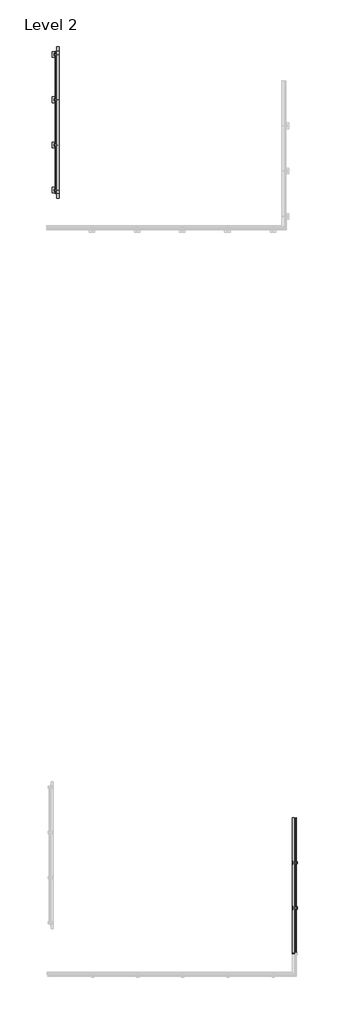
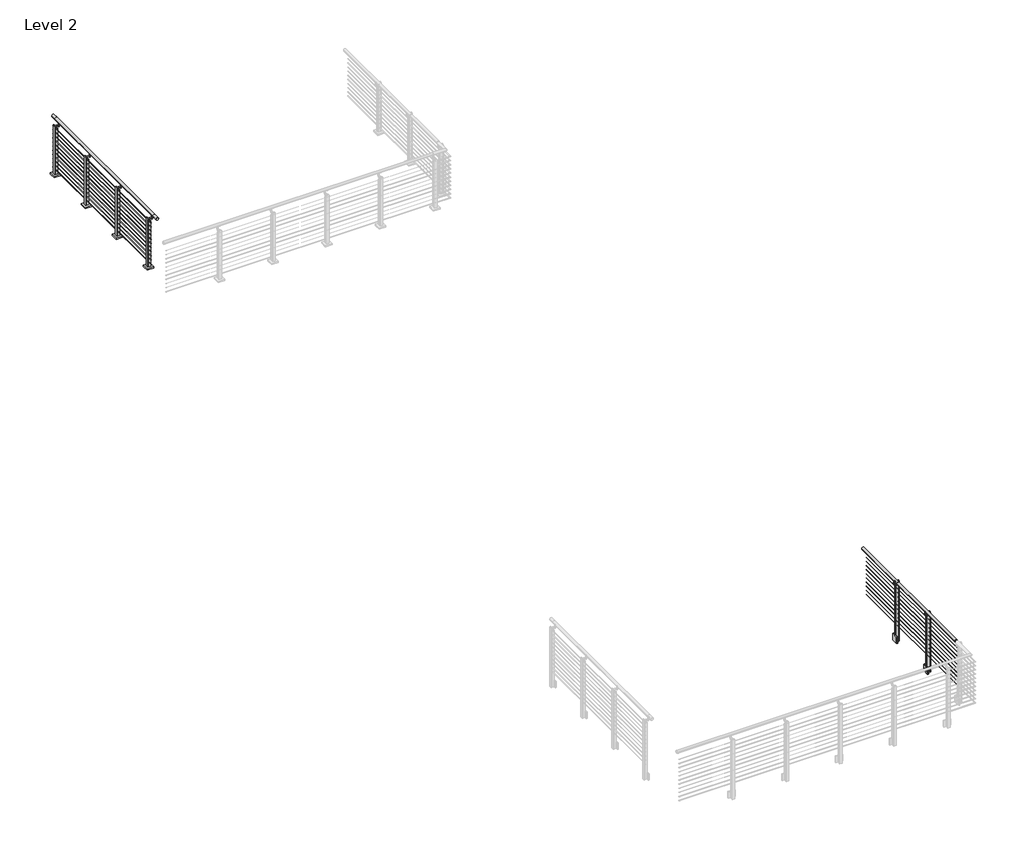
# One storey, part 4 of 12: 2 railings.
"""IFC4 building model written with IfcOpenShell, lengths in millimetres."""

from ifc_helpers import new_model, si_unit, point, frame, frame_2d, origin, place, context, project, spatial, polyline, circle_curve, trimmed, segment, composite_curve, outline, extrude, element, save
from ifc_brep_helpers import plane_surface, cylinder_surface, advanced_brep

model = new_model("IFC4")

# Units and contexts
model_context = context("Model", 3, world=origin())
ifc_project = project(units=[si_unit("LENGTHUNIT", "METRE", prefix="MILLI")], contexts=[model_context])

# Site, building, storey
site = spatial("IfcSite", under=ifc_project)
building = spatial("IfcBuilding", under=site)
storey = spatial("IfcBuildingStorey", under=building, Name="Level 2", Elevation=3048.0)

# Railings
placement = place(None, origin())
element("IfcRailing", 1, ObjectType="VIVA-TEE-Cable-Fascia Mount-Straight", at=placement, inside=storey, context=model_context, shape_type="SolidModel", body=[
    advanced_brep(
    [(-3699.5359195, -51787.2426165, 4102.1), (-3750.3359195, -51787.2426165, 4102.1), (-3699.5359195, -51777.5134231, 4102.1), (-3750.3359195, -51777.5134231, 4102.1), (-3699.5359195, -48729.5134231, 4102.1), (-3750.3359195, -48729.5134231, 4102.1)],
    [
        (0, 1, circle_curve(frame((-3724.9359195, -51787.2426165, 4102.1), z_axis=(0.0, -1.0, 0.0), x_axis=(-1.0, 0.0, 0.0)), 25.4)),
        (1, 0, circle_curve(frame((-3724.9359195, -51787.2426165, 4102.1), z_axis=(0.0, -1.0, 0.0), x_axis=(-1.0, 0.0, 0.0)), 25.4)),
        (0, 2),
        (2, 3, circle_curve(frame((-3724.9359195, -51777.5134231, 4102.1), z_axis=(0.0, -1.0, 0.0), x_axis=(-1.0, 0.0, 0.0)), 25.4)),
        (3, 1),
        (3, 2, circle_curve(frame((-3724.9359195, -51777.5134231, 4102.1), z_axis=(0.0, -1.0, 0.0), x_axis=(-1.0, 0.0, 0.0)), 25.4)),
        (4, 5, circle_curve(frame((-3724.9359195, -48729.5134231, 4102.1), z_axis=(0.0, 1.0, 0.0), x_axis=(-1.0, 0.0, 0.0)), 25.4)),
        (5, 4, circle_curve(frame((-3724.9359195, -48729.5134231, 4102.1), z_axis=(0.0, 1.0, 0.0), x_axis=(-1.0, 0.0, 0.0)), 25.4)),
        (2, 4),
        (5, 3),
    ],
    [
        plane_surface(frame((-3724.9359195, -51787.2426165, 4127.5), z_axis=(0.0, -1.0, 0.0), x_axis=(0.0, 0.0, 1.0))),
        cylinder_surface(frame((-3724.9359195, -51787.2426165, 4102.1), z_axis=(0.0, -1.0, 0.0), x_axis=(-1.0, 0.0, 0.0)), 25.4),
        plane_surface(frame((-3724.9359195, -48729.5134231, 4127.5), z_axis=(0.0, 1.0, 0.0), x_axis=(0.0, 0.0, 1.0))),
        cylinder_surface(frame((-3724.9359195, -51777.5134231, 4102.1), z_axis=(0.0, -1.0, 0.0), x_axis=(-1.0, 0.0, 0.0)), 25.4),
    ],
    [
        (0, [[1, 2]]),
        (1, [[-1, 3, 4, 5]]),
        (1, [[-2, -5, 6, -3]]),
        (2, [[7, 8]]),
        (3, [[-4, 9, -8, 10]]),
        (3, [[-6, -10, -7, -9]]),
    ],
),
    extrude(outline(composite_curve([segment(trimmed(circle_curve(frame_2d((3985.4124, -3663.9759195)), 2.3876), [point((3985.4124, -3666.3635195))], [point((3985.4124, -3661.5883195))], False, "CARTESIAN"), True, "CONTINUOUS"), segment(trimmed(circle_curve(frame_2d((3985.4124, -3663.9759195)), 2.3876), [point((3985.4124, -3661.5883195))], [point((3985.4124, -3666.3635195))], False, "CARTESIAN"), True, "CONTINUOUS")], self_intersect=False)), frame((0.0, -51777.5134231, 0.0), z_axis=(0.0, 1.0, 0.0), x_axis=(0.0, 0.0, 1.0)), (0.0, 0.0, 1.0), 3048.0),
    extrude(outline(composite_curve([segment(trimmed(circle_curve(frame_2d((3902.8624, -3663.9759195)), 2.3876), [point((3902.8624, -3666.3635195))], [point((3902.8624, -3661.5883195))], False, "CARTESIAN"), True, "CONTINUOUS"), segment(trimmed(circle_curve(frame_2d((3902.8624, -3663.9759195)), 2.3876), [point((3902.8624, -3661.5883195))], [point((3902.8624, -3666.3635195))], False, "CARTESIAN"), True, "CONTINUOUS")], self_intersect=False)), frame((0.0, -51777.5134231, 0.0), z_axis=(0.0, 1.0, 0.0), x_axis=(0.0, 0.0, 1.0)), (0.0, 0.0, 1.0), 3048.0),
    extrude(outline(composite_curve([segment(trimmed(circle_curve(frame_2d((3820.3124, -3663.9759195)), 2.3876), [point((3820.3124, -3666.3635195))], [point((3820.3124, -3661.5883195))], False, "CARTESIAN"), True, "CONTINUOUS"), segment(trimmed(circle_curve(frame_2d((3820.3124, -3663.9759195)), 2.3876), [point((3820.3124, -3661.5883195))], [point((3820.3124, -3666.3635195))], False, "CARTESIAN"), True, "CONTINUOUS")], self_intersect=False)), frame((0.0, -51777.5134231, 0.0), z_axis=(0.0, 1.0, 0.0), x_axis=(0.0, 0.0, 1.0)), (0.0, 0.0, 1.0), 3048.0),
    extrude(outline(composite_curve([segment(trimmed(circle_curve(frame_2d((3737.7624, -3663.9759195)), 2.3876), [point((3737.7624, -3666.3635195))], [point((3737.7624, -3661.5883195))], False, "CARTESIAN"), True, "CONTINUOUS"), segment(trimmed(circle_curve(frame_2d((3737.7624, -3663.9759195)), 2.3876), [point((3737.7624, -3661.5883195))], [point((3737.7624, -3666.3635195))], False, "CARTESIAN"), True, "CONTINUOUS")], self_intersect=False)), frame((0.0, -51777.5134231, 0.0), z_axis=(0.0, 1.0, 0.0), x_axis=(0.0, 0.0, 1.0)), (0.0, 0.0, 1.0), 3048.0),
    extrude(outline(composite_curve([segment(trimmed(circle_curve(frame_2d((3655.2124, -3663.9759195)), 2.3876), [point((3655.2124, -3666.3635195))], [point((3655.2124, -3661.5883195))], False, "CARTESIAN"), True, "CONTINUOUS"), segment(trimmed(circle_curve(frame_2d((3655.2124, -3663.9759195)), 2.3876), [point((3655.2124, -3661.5883195))], [point((3655.2124, -3666.3635195))], False, "CARTESIAN"), True, "CONTINUOUS")], self_intersect=False)), frame((0.0, -51777.5134231, 0.0), z_axis=(0.0, 1.0, 0.0), x_axis=(0.0, 0.0, 1.0)), (0.0, 0.0, 1.0), 3048.0),
    extrude(outline(composite_curve([segment(trimmed(circle_curve(frame_2d((3572.6624, -3663.9759195)), 2.3876), [point((3572.6624, -3666.3635195))], [point((3572.6624, -3661.5883195))], False, "CARTESIAN"), True, "CONTINUOUS"), segment(trimmed(circle_curve(frame_2d((3572.6624, -3663.9759195)), 2.3876), [point((3572.6624, -3661.5883195))], [point((3572.6624, -3666.3635195))], False, "CARTESIAN"), True, "CONTINUOUS")], self_intersect=False)), frame((0.0, -51777.5134231, 0.0), z_axis=(0.0, 1.0, 0.0), x_axis=(0.0, 0.0, 1.0)), (0.0, 0.0, 1.0), 3048.0),
    extrude(outline(composite_curve([segment(trimmed(circle_curve(frame_2d((3490.1124, -3663.9759195)), 2.3876), [point((3490.1124, -3666.3635195))], [point((3490.1124, -3661.5883195))], False, "CARTESIAN"), True, "CONTINUOUS"), segment(trimmed(circle_curve(frame_2d((3490.1124, -3663.9759195)), 2.3876), [point((3490.1124, -3661.5883195))], [point((3490.1124, -3666.3635195))], False, "CARTESIAN"), True, "CONTINUOUS")], self_intersect=False)), frame((0.0, -51777.5134231, 0.0), z_axis=(0.0, 1.0, 0.0), x_axis=(0.0, 0.0, 1.0)), (0.0, 0.0, 1.0), 3048.0),
    extrude(outline(composite_curve([segment(trimmed(circle_curve(frame_2d((3407.5624, -3663.9759195)), 2.3876), [point((3407.5624, -3666.3635195))], [point((3407.5624, -3661.5883195))], False, "CARTESIAN"), True, "CONTINUOUS"), segment(trimmed(circle_curve(frame_2d((3407.5624, -3663.9759195)), 2.3876), [point((3407.5624, -3661.5883195))], [point((3407.5624, -3666.3635195))], False, "CARTESIAN"), True, "CONTINUOUS")], self_intersect=False)), frame((0.0, -51777.5134231, 0.0), z_axis=(0.0, 1.0, 0.0), x_axis=(0.0, 0.0, 1.0)), (0.0, 0.0, 1.0), 3048.0),
    extrude(outline(composite_curve([segment(trimmed(circle_curve(frame_2d((3325.0124, -3663.9759195)), 2.3876), [point((3325.0124, -3666.3635195))], [point((3325.0124, -3661.5883195))], False, "CARTESIAN"), True, "CONTINUOUS"), segment(trimmed(circle_curve(frame_2d((3325.0124, -3663.9759195)), 2.3876), [point((3325.0124, -3661.5883195))], [point((3325.0124, -3666.3635195))], False, "CARTESIAN"), True, "CONTINUOUS")], self_intersect=False)), frame((0.0, -51777.5134231, 0.0), z_axis=(0.0, 1.0, 0.0), x_axis=(0.0, 0.0, 1.0)), (0.0, 0.0, 1.0), 3048.0),
    extrude(outline(composite_curve([segment(trimmed(circle_curve(frame_2d((3242.4624, -3663.9759195)), 2.3876), [point((3242.4624, -3666.3635195))], [point((3242.4624, -3661.5883195))], False, "CARTESIAN"), True, "CONTINUOUS"), segment(trimmed(circle_curve(frame_2d((3242.4624, -3663.9759195)), 2.3876), [point((3242.4624, -3661.5883195))], [point((3242.4624, -3666.3635195))], False, "CARTESIAN"), True, "CONTINUOUS")], self_intersect=False)), frame((0.0, -51777.5134231, 0.0), z_axis=(0.0, 1.0, 0.0), x_axis=(0.0, 0.0, 1.0)), (0.0, 0.0, 1.0), 3048.0),
    extrude(outline(composite_curve([segment(trimmed(circle_curve(frame_2d((3159.9124, -3663.9759195)), 2.3876), [point((3159.9124, -3666.3635195))], [point((3159.9124, -3661.5883195))], False, "CARTESIAN"), True, "CONTINUOUS"), segment(trimmed(circle_curve(frame_2d((3159.9124, -3663.9759195)), 2.3876), [point((3159.9124, -3661.5883195))], [point((3159.9124, -3666.3635195))], False, "CARTESIAN"), True, "CONTINUOUS")], self_intersect=False)), frame((0.0, -51777.5134231, 0.0), z_axis=(0.0, 1.0, 0.0), x_axis=(0.0, 0.0, 1.0)), (0.0, 0.0, 1.0), 3048.0),
    extrude(outline(composite_curve([segment(trimmed(circle_curve(frame_2d((0.0, 7.0)), 7.0), [point((0.0, 14.0))], [point((0.0, 0.0))], False, "CARTESIAN"), True, "CONTINUOUS"), segment(trimmed(circle_curve(frame_2d((0.0, 7.0)), 7.0), [point((0.0, 0.0))], [point((0.0, 14.0))], False, "CARTESIAN"), True, "CONTINUOUS")], self_intersect=False)), frame((-3717.5910657, -49745.4397132, 3997.1832524), z_axis=(0.0, 0.004253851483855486, 0.9999909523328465), x_axis=(0.0, 0.9999909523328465, -0.004253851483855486)), (0.0, 0.0, 1.0), 75.97),
    extrude(outline(composite_curve([segment(trimmed(circle_curve(frame_2d((4095.2025651, -3724.7324697)), 19.05), [point((4081.7916463, -3711.2028815))], [point((4081.7916463, -3738.262058))], True, "CARTESIAN"), True, "CONTINUOUS"), segment(polyline([(4081.7916463, -3738.262058), (4080.7742593, -3739.2884476)]), True, "CONTINUOUS"), segment(trimmed(circle_curve(frame_2d((4079.7089374, -3738.2324697)), 1.5), [point((4080.7742593, -3739.2884476))], [point((4078.5780156, -3739.2178712))], False, "CARTESIAN"), True, "CONTINUOUS"), segment(trimmed(circle_curve(frame_2d((4095.2025651, -3724.7324697)), 22.05), [point((4078.5780156, -3739.2178712))], [point((4078.5780156, -3710.2470683))], False, "CARTESIAN"), True, "CONTINUOUS"), segment(trimmed(circle_curve(frame_2d((4079.7089374, -3711.2324697)), 1.5), [point((4078.5780156, -3710.2470683))], [point((4080.7742593, -3710.1764919))], False, "CARTESIAN"), True, "CONTINUOUS"), segment(polyline([(4080.7742593, -3710.1764919), (4081.7916463, -3711.2028815)]), True, "CONTINUOUS")], self_intersect=False)), frame((0.0, -49780.9781873, 0.0), z_axis=(0.0, 1.0, 0.0), x_axis=(0.0, 0.0, 1.0)), (0.0, 0.0, 1.0), 74.5229187),
    extrude(outline(composite_curve([segment(trimmed(circle_curve(frame_2d((-49745.2353827, 4024.1259188)), 12.5), [point((-49757.7353827, 4024.1259188))], [point((-49732.7353827, 4024.1259188))], False, "CARTESIAN"), True, "CONTINUOUS"), segment(trimmed(circle_curve(frame_2d((-49745.2353827, 4024.1259188)), 12.5), [point((-49732.7353827, 4024.1259188))], [point((-49757.7353827, 4024.1259188))], False, "CARTESIAN"), True, "CONTINUOUS")], self_intersect=False)), frame((-3737.2480798, 0.0, 0.0), z_axis=(1.0, 0.0, 0.0), x_axis=(0.0, 1.0, 0.0)), (0.0, 0.0, 1.0), 92.423),
    extrude(outline(polyline([(-3714.7759195, -49681.6165481), (-3701.8934679, -49681.6165481), (-3701.8934679, -49808.6165481), (-3714.7759195, -49808.6165481), (-3714.7759195, -49681.6165481)])), frame((0.0, 0.0, 2851.15), z_axis=(0.0, 0.0, 1.0), x_axis=(1.0, 0.0, 0.0)), (0.0, 0.0, 1.0), 127.0),
    extrude(outline(composite_curve([segment(trimmed(circle_curve(frame_2d((3972.2425, -3670.991371)), 24.765), [point((3997.0075, -3670.991371))], [point((3972.2425, -3695.756371))], False, "CARTESIAN"), True, "CONTINUOUS"), segment(polyline([(3972.2425, -3695.756371), (2851.15, -3695.756371), (2851.15, -3644.9259195), (3997.0075, -3644.9259195), (3997.0075, -3670.991371)]), True, "CONTINUOUS")], self_intersect=False)), frame((0.0, -49731.1130485, 0.0), z_axis=(0.0, 1.0, 0.0), x_axis=(0.0, 0.0, 1.0)), (0.0, 0.0, 1.0), 9.525),
    extrude(outline(polyline([(-3701.8934679, -49740.3540481), (-3701.8934679, -49681.6165481), (-3693.9559679, -49681.6165481), (-3693.9559679, -49732.4165481), (-3644.9259195, -49732.4165481), (-3644.9259195, -49740.3540481), (-3701.8934679, -49740.3540481)])), frame((0.0, 0.0, 2851.15), z_axis=(0.0, 0.0, 1.0), x_axis=(1.0, 0.0, 0.0)), (0.0, 0.0, 1.0), 127.0),
    extrude(outline(polyline([(-3701.8934679, -49749.8790481), (-3644.9259195, -49749.8790481), (-3644.9259195, -49757.8165481), (-3693.9559679, -49757.8165481), (-3693.9559679, -49808.6165481), (-3701.8934679, -49808.6165481), (-3701.8934679, -49749.8790481)])), frame((0.0, 0.0, 2851.15), z_axis=(0.0, 0.0, 1.0), x_axis=(1.0, 0.0, 0.0)), (0.0, 0.0, 1.0), 127.0),
    extrude(outline(composite_curve([segment(polyline([(-49719.7165481, 2851.15), (-49770.5165481, 2851.15), (-49770.5165481, 4027.17)]), True, "CONTINUOUS"), segment(trimmed(circle_curve(frame_2d((-49745.1165481, 4027.17)), 25.4), [point((-49770.5165481, 4027.17))], [point((-49719.7165481, 4027.17))], False, "CARTESIAN"), True, "CONTINUOUS"), segment(polyline([(-49719.7165481, 4027.17), (-49719.7165481, 2851.15)]), True, "CONTINUOUS")], self_intersect=False)), frame((-3644.9259195, 0.0, 0.0), z_axis=(1.0, 0.0, 0.0), x_axis=(0.0, 1.0, 0.0)), (0.0, 0.0, 1.0), 9.525),
    extrude(outline(composite_curve([segment(trimmed(circle_curve(frame_2d((3972.2425, -3670.991371)), 24.765), [point((3997.0075, -3670.991371))], [point((3972.2425, -3695.756371))], False, "CARTESIAN"), True, "CONTINUOUS"), segment(polyline([(3972.2425, -3695.756371), (2851.15, -3695.756371), (2851.15, -3644.9259195), (3997.0075, -3644.9259195), (3997.0075, -3670.991371)]), True, "CONTINUOUS")], self_intersect=False)), frame((0.0, -49768.6450477, 0.0), z_axis=(0.0, 1.0, 0.0), x_axis=(0.0, 0.0, 1.0)), (0.0, 0.0, 1.0), 9.525),
    extrude(outline(composite_curve([segment(trimmed(circle_curve(frame_2d((0.0, 7.0)), 7.0), [point((0.0, 14.0))], [point((0.0, 0.0))], False, "CARTESIAN"), True, "CONTINUOUS"), segment(trimmed(circle_curve(frame_2d((0.0, 7.0)), 7.0), [point((0.0, 0.0))], [point((0.0, 14.0))], False, "CARTESIAN"), True, "CONTINUOUS")], self_intersect=False)), frame((-3717.5910657, -50761.4397132, 3997.1832524), z_axis=(0.0, 0.004253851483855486, 0.9999909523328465), x_axis=(0.0, 0.9999909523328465, -0.004253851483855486)), (0.0, 0.0, 1.0), 75.97),
    extrude(outline(composite_curve([segment(trimmed(circle_curve(frame_2d((4095.2025651, -3724.7324697)), 19.05), [point((4081.7916463, -3711.2028815))], [point((4081.7916463, -3738.262058))], True, "CARTESIAN"), True, "CONTINUOUS"), segment(polyline([(4081.7916463, -3738.262058), (4080.7742593, -3739.2884476)]), True, "CONTINUOUS"), segment(trimmed(circle_curve(frame_2d((4079.7089374, -3738.2324697)), 1.5), [point((4080.7742593, -3739.2884476))], [point((4078.5780156, -3739.2178712))], False, "CARTESIAN"), True, "CONTINUOUS"), segment(trimmed(circle_curve(frame_2d((4095.2025651, -3724.7324697)), 22.05), [point((4078.5780156, -3739.2178712))], [point((4078.5780156, -3710.2470683))], False, "CARTESIAN"), True, "CONTINUOUS"), segment(trimmed(circle_curve(frame_2d((4079.7089374, -3711.2324697)), 1.5), [point((4078.5780156, -3710.2470683))], [point((4080.7742593, -3710.1764919))], False, "CARTESIAN"), True, "CONTINUOUS"), segment(polyline([(4080.7742593, -3710.1764919), (4081.7916463, -3711.2028815)]), True, "CONTINUOUS")], self_intersect=False)), frame((0.0, -50796.9781873, 0.0), z_axis=(0.0, 1.0, 0.0), x_axis=(0.0, 0.0, 1.0)), (0.0, 0.0, 1.0), 74.5229187),
    extrude(outline(composite_curve([segment(trimmed(circle_curve(frame_2d((-50761.2353827, 4024.1259188)), 12.5), [point((-50773.7353827, 4024.1259188))], [point((-50748.7353827, 4024.1259188))], False, "CARTESIAN"), True, "CONTINUOUS"), segment(trimmed(circle_curve(frame_2d((-50761.2353827, 4024.1259188)), 12.5), [point((-50748.7353827, 4024.1259188))], [point((-50773.7353827, 4024.1259188))], False, "CARTESIAN"), True, "CONTINUOUS")], self_intersect=False)), frame((-3737.2480798, 0.0, 0.0), z_axis=(1.0, 0.0, 0.0), x_axis=(0.0, 1.0, 0.0)), (0.0, 0.0, 1.0), 92.423),
    extrude(outline(polyline([(-3714.7759195, -50697.6165481), (-3701.8934679, -50697.6165481), (-3701.8934679, -50824.6165481), (-3714.7759195, -50824.6165481), (-3714.7759195, -50697.6165481)])), frame((0.0, 0.0, 2851.15), z_axis=(0.0, 0.0, 1.0), x_axis=(1.0, 0.0, 0.0)), (0.0, 0.0, 1.0), 127.0),
    extrude(outline(composite_curve([segment(trimmed(circle_curve(frame_2d((3972.2425, -3670.991371)), 24.765), [point((3997.0075, -3670.991371))], [point((3972.2425, -3695.756371))], False, "CARTESIAN"), True, "CONTINUOUS"), segment(polyline([(3972.2425, -3695.756371), (2851.15, -3695.756371), (2851.15, -3644.9259195), (3997.0075, -3644.9259195), (3997.0075, -3670.991371)]), True, "CONTINUOUS")], self_intersect=False)), frame((0.0, -50747.1130485, 0.0), z_axis=(0.0, 1.0, 0.0), x_axis=(0.0, 0.0, 1.0)), (0.0, 0.0, 1.0), 9.525),
    extrude(outline(polyline([(-3701.8934679, -50756.3540481), (-3701.8934679, -50697.6165481), (-3693.9559679, -50697.6165481), (-3693.9559679, -50748.4165481), (-3644.9259195, -50748.4165481), (-3644.9259195, -50756.3540481), (-3701.8934679, -50756.3540481)])), frame((0.0, 0.0, 2851.15), z_axis=(0.0, 0.0, 1.0), x_axis=(1.0, 0.0, 0.0)), (0.0, 0.0, 1.0), 127.0),
    extrude(outline(polyline([(-3701.8934679, -50765.8790481), (-3644.9259195, -50765.8790481), (-3644.9259195, -50773.8165481), (-3693.9559679, -50773.8165481), (-3693.9559679, -50824.6165481), (-3701.8934679, -50824.6165481), (-3701.8934679, -50765.8790481)])), frame((0.0, 0.0, 2851.15), z_axis=(0.0, 0.0, 1.0), x_axis=(1.0, 0.0, 0.0)), (0.0, 0.0, 1.0), 127.0),
    extrude(outline(composite_curve([segment(polyline([(-50735.7165481, 2851.15), (-50786.5165481, 2851.15), (-50786.5165481, 4027.17)]), True, "CONTINUOUS"), segment(trimmed(circle_curve(frame_2d((-50761.1165481, 4027.17)), 25.4), [point((-50786.5165481, 4027.17))], [point((-50735.7165481, 4027.17))], False, "CARTESIAN"), True, "CONTINUOUS"), segment(polyline([(-50735.7165481, 4027.17), (-50735.7165481, 2851.15)]), True, "CONTINUOUS")], self_intersect=False)), frame((-3644.9259195, 0.0, 0.0), z_axis=(1.0, 0.0, 0.0), x_axis=(0.0, 1.0, 0.0)), (0.0, 0.0, 1.0), 9.525),
    extrude(outline(composite_curve([segment(trimmed(circle_curve(frame_2d((3972.2425, -3670.991371)), 24.765), [point((3997.0075, -3670.991371))], [point((3972.2425, -3695.756371))], False, "CARTESIAN"), True, "CONTINUOUS"), segment(polyline([(3972.2425, -3695.756371), (2851.15, -3695.756371), (2851.15, -3644.9259195), (3997.0075, -3644.9259195), (3997.0075, -3670.991371)]), True, "CONTINUOUS")], self_intersect=False)), frame((0.0, -50784.6450477, 0.0), z_axis=(0.0, 1.0, 0.0), x_axis=(0.0, 0.0, 1.0)), (0.0, 0.0, 1.0), 9.525),
])
element("IfcRailing", 2, ObjectType="VIVA-TEE-Cable-Floor Mount-Straight", at=placement, inside=storey, context=model_context, shape_type="SolidModel", body=[
    advanced_brep(
    [(-9001.3177073, -34800.4431877, 4102.1), (-9052.1177073, -34800.4431877, 4102.1), (-9001.3177073, -34698.8431877, 4102.1), (-9052.1177073, -34698.8431877, 4102.1), (-9001.3177073, -31491.381782, 4102.1), (-9052.1177073, -31491.381782, 4102.1), (-9001.3177073, -31389.781782, 4102.1), (-9052.1177073, -31389.781782, 4102.1)],
    [
        (0, 1, circle_curve(frame((-9026.7177073, -34800.4431877, 4102.1), z_axis=(0.0, -1.0, 0.0), x_axis=(-1.0, 0.0, 0.0)), 25.4)),
        (1, 0, circle_curve(frame((-9026.7177073, -34800.4431877, 4102.1), z_axis=(0.0, -1.0, 0.0), x_axis=(-1.0, 0.0, 0.0)), 25.4)),
        (0, 2),
        (2, 3, circle_curve(frame((-9026.7177073, -34698.8431877, 4102.1), z_axis=(0.0, -1.0, 0.0), x_axis=(-1.0, 0.0, 0.0)), 25.4)),
        (3, 1),
        (3, 2, circle_curve(frame((-9026.7177073, -34698.8431877, 4102.1), z_axis=(0.0, -1.0, 0.0), x_axis=(-1.0, 0.0, 0.0)), 25.4)),
        (2, 4),
        (4, 5, circle_curve(frame((-9026.7177073, -31491.381782, 4102.1), z_axis=(0.0, -1.0, 0.0), x_axis=(-1.0, 0.0, 0.0)), 25.4)),
        (5, 3),
        (5, 4, circle_curve(frame((-9026.7177073, -31491.381782, 4102.1), z_axis=(0.0, -1.0, 0.0), x_axis=(-1.0, 0.0, 0.0)), 25.4)),
        (6, 7, circle_curve(frame((-9026.7177073, -31389.781782, 4102.1), z_axis=(0.0, 1.0, 0.0), x_axis=(-1.0, 0.0, 0.0)), 25.4)),
        (7, 6, circle_curve(frame((-9026.7177073, -31389.781782, 4102.1), z_axis=(0.0, 1.0, 0.0), x_axis=(-1.0, 0.0, 0.0)), 25.4)),
        (4, 6),
        (7, 5),
    ],
    [
        plane_surface(frame((-9026.7177073, -34800.4431877, 4127.5), z_axis=(0.0, -1.0, 0.0), x_axis=(0.0, 0.0, 1.0))),
        cylinder_surface(frame((-9026.7177073, -34800.4431877, 4102.1), z_axis=(0.0, -1.0, 0.0), x_axis=(-1.0, 0.0, 0.0)), 25.4),
        cylinder_surface(frame((-9026.7177073, -34698.8431877, 4102.1), z_axis=(0.0, -1.0, 0.0), x_axis=(-1.0, 0.0, 0.0)), 25.4),
        plane_surface(frame((-9026.7177073, -31389.781782, 4127.5), z_axis=(0.0, 1.0, 0.0), x_axis=(0.0, 0.0, 1.0))),
        cylinder_surface(frame((-9026.7177073, -31491.381782, 4102.1), z_axis=(0.0, -1.0, 0.0), x_axis=(-1.0, 0.0, 0.0)), 25.4),
    ],
    [
        (0, [[1, 2]]),
        (1, [[-1, 3, 4, 5]]),
        (1, [[-2, -5, 6, -3]]),
        (2, [[-4, 7, 8, 9]]),
        (2, [[-6, -9, 10, -7]]),
        (3, [[11, 12]]),
        (4, [[-8, 13, -12, 14]]),
        (4, [[-10, -14, -11, -13]]),
    ],
),
    extrude(outline(composite_curve([segment(trimmed(circle_curve(frame_2d((3985.4124, -9087.0427073)), 2.3876), [point((3985.4124, -9084.6551073))], [point((3985.4124, -9089.4303073))], False, "CARTESIAN"), True, "CONTINUOUS"), segment(trimmed(circle_curve(frame_2d((3985.4124, -9087.0427073)), 2.3876), [point((3985.4124, -9089.4303073))], [point((3985.4124, -9084.6551073))], False, "CARTESIAN"), True, "CONTINUOUS")], self_intersect=False)), frame((0.0, -34698.8431877, 0.0), z_axis=(0.0, 1.0, 0.0), x_axis=(0.0, 0.0, 1.0)), (0.0, 0.0, 1.0), 3207.4614057),
    extrude(outline(composite_curve([segment(trimmed(circle_curve(frame_2d((3902.8624, -9087.0427073)), 2.3876), [point((3902.8624, -9084.6551073))], [point((3902.8624, -9089.4303073))], False, "CARTESIAN"), True, "CONTINUOUS"), segment(trimmed(circle_curve(frame_2d((3902.8624, -9087.0427073)), 2.3876), [point((3902.8624, -9089.4303073))], [point((3902.8624, -9084.6551073))], False, "CARTESIAN"), True, "CONTINUOUS")], self_intersect=False)), frame((0.0, -34698.8431877, 0.0), z_axis=(0.0, 1.0, 0.0), x_axis=(0.0, 0.0, 1.0)), (0.0, 0.0, 1.0), 3207.4614057),
    extrude(outline(composite_curve([segment(trimmed(circle_curve(frame_2d((3820.3124, -9087.0427073)), 2.3876), [point((3820.3124, -9084.6551073))], [point((3820.3124, -9089.4303073))], False, "CARTESIAN"), True, "CONTINUOUS"), segment(trimmed(circle_curve(frame_2d((3820.3124, -9087.0427073)), 2.3876), [point((3820.3124, -9089.4303073))], [point((3820.3124, -9084.6551073))], False, "CARTESIAN"), True, "CONTINUOUS")], self_intersect=False)), frame((0.0, -34698.8431877, 0.0), z_axis=(0.0, 1.0, 0.0), x_axis=(0.0, 0.0, 1.0)), (0.0, 0.0, 1.0), 3207.4614057),
    extrude(outline(composite_curve([segment(trimmed(circle_curve(frame_2d((3737.7624, -9087.0427073)), 2.3876), [point((3737.7624, -9084.6551073))], [point((3737.7624, -9089.4303073))], False, "CARTESIAN"), True, "CONTINUOUS"), segment(trimmed(circle_curve(frame_2d((3737.7624, -9087.0427073)), 2.3876), [point((3737.7624, -9089.4303073))], [point((3737.7624, -9084.6551073))], False, "CARTESIAN"), True, "CONTINUOUS")], self_intersect=False)), frame((0.0, -34698.8431877, 0.0), z_axis=(0.0, 1.0, 0.0), x_axis=(0.0, 0.0, 1.0)), (0.0, 0.0, 1.0), 3207.4614057),
    extrude(outline(composite_curve([segment(trimmed(circle_curve(frame_2d((3655.2124, -9087.0427073)), 2.3876), [point((3655.2124, -9084.6551073))], [point((3655.2124, -9089.4303073))], False, "CARTESIAN"), True, "CONTINUOUS"), segment(trimmed(circle_curve(frame_2d((3655.2124, -9087.0427073)), 2.3876), [point((3655.2124, -9089.4303073))], [point((3655.2124, -9084.6551073))], False, "CARTESIAN"), True, "CONTINUOUS")], self_intersect=False)), frame((0.0, -34698.8431877, 0.0), z_axis=(0.0, 1.0, 0.0), x_axis=(0.0, 0.0, 1.0)), (0.0, 0.0, 1.0), 3207.4614057),
    extrude(outline(composite_curve([segment(trimmed(circle_curve(frame_2d((3572.6624, -9087.0427073)), 2.3876), [point((3572.6624, -9084.6551073))], [point((3572.6624, -9089.4303073))], False, "CARTESIAN"), True, "CONTINUOUS"), segment(trimmed(circle_curve(frame_2d((3572.6624, -9087.0427073)), 2.3876), [point((3572.6624, -9089.4303073))], [point((3572.6624, -9084.6551073))], False, "CARTESIAN"), True, "CONTINUOUS")], self_intersect=False)), frame((0.0, -34698.8431877, 0.0), z_axis=(0.0, 1.0, 0.0), x_axis=(0.0, 0.0, 1.0)), (0.0, 0.0, 1.0), 3207.4614057),
    extrude(outline(composite_curve([segment(trimmed(circle_curve(frame_2d((3490.1124, -9087.0427073)), 2.3876), [point((3490.1124, -9084.6551073))], [point((3490.1124, -9089.4303073))], False, "CARTESIAN"), True, "CONTINUOUS"), segment(trimmed(circle_curve(frame_2d((3490.1124, -9087.0427073)), 2.3876), [point((3490.1124, -9089.4303073))], [point((3490.1124, -9084.6551073))], False, "CARTESIAN"), True, "CONTINUOUS")], self_intersect=False)), frame((0.0, -34698.8431877, 0.0), z_axis=(0.0, 1.0, 0.0), x_axis=(0.0, 0.0, 1.0)), (0.0, 0.0, 1.0), 3207.4614057),
    extrude(outline(composite_curve([segment(trimmed(circle_curve(frame_2d((3407.5624, -9087.0427073)), 2.3876), [point((3407.5624, -9084.6551073))], [point((3407.5624, -9089.4303073))], False, "CARTESIAN"), True, "CONTINUOUS"), segment(trimmed(circle_curve(frame_2d((3407.5624, -9087.0427073)), 2.3876), [point((3407.5624, -9089.4303073))], [point((3407.5624, -9084.6551073))], False, "CARTESIAN"), True, "CONTINUOUS")], self_intersect=False)), frame((0.0, -34698.8431877, 0.0), z_axis=(0.0, 1.0, 0.0), x_axis=(0.0, 0.0, 1.0)), (0.0, 0.0, 1.0), 3207.4614057),
    extrude(outline(composite_curve([segment(trimmed(circle_curve(frame_2d((3325.0124, -9087.0427073)), 2.3876), [point((3325.0124, -9084.6551073))], [point((3325.0124, -9089.4303073))], False, "CARTESIAN"), True, "CONTINUOUS"), segment(trimmed(circle_curve(frame_2d((3325.0124, -9087.0427073)), 2.3876), [point((3325.0124, -9089.4303073))], [point((3325.0124, -9084.6551073))], False, "CARTESIAN"), True, "CONTINUOUS")], self_intersect=False)), frame((0.0, -34698.8431877, 0.0), z_axis=(0.0, 1.0, 0.0), x_axis=(0.0, 0.0, 1.0)), (0.0, 0.0, 1.0), 3207.4614057),
    extrude(outline(composite_curve([segment(trimmed(circle_curve(frame_2d((3242.4624, -9087.0427073)), 2.3876), [point((3242.4624, -9084.6551073))], [point((3242.4624, -9089.4303073))], False, "CARTESIAN"), True, "CONTINUOUS"), segment(trimmed(circle_curve(frame_2d((3242.4624, -9087.0427073)), 2.3876), [point((3242.4624, -9089.4303073))], [point((3242.4624, -9084.6551073))], False, "CARTESIAN"), True, "CONTINUOUS")], self_intersect=False)), frame((0.0, -34698.8431877, 0.0), z_axis=(0.0, 1.0, 0.0), x_axis=(0.0, 0.0, 1.0)), (0.0, 0.0, 1.0), 3207.4614057),
    extrude(outline(composite_curve([segment(trimmed(circle_curve(frame_2d((3159.9124, -9087.0427073)), 2.3876), [point((3159.9124, -9084.6551073))], [point((3159.9124, -9089.4303073))], False, "CARTESIAN"), True, "CONTINUOUS"), segment(trimmed(circle_curve(frame_2d((3159.9124, -9087.0427073)), 2.3876), [point((3159.9124, -9089.4303073))], [point((3159.9124, -9084.6551073))], False, "CARTESIAN"), True, "CONTINUOUS")], self_intersect=False)), frame((0.0, -34698.8431877, 0.0), z_axis=(0.0, 1.0, 0.0), x_axis=(0.0, 0.0, 1.0)), (0.0, 0.0, 1.0), 3207.4614057),
    extrude(outline(composite_curve([segment(trimmed(circle_curve(frame_2d((0.0, -7.0)), 7.0), [point((0.0, -14.0))], [point((0.0, 0.0))], False, "CARTESIAN"), True, "CONTINUOUS"), segment(trimmed(circle_curve(frame_2d((0.0, -7.0)), 7.0), [point((0.0, 0.0))], [point((0.0, -14.0))], False, "CARTESIAN"), True, "CONTINUOUS")], self_intersect=False)), frame((-9033.4275611, -31571.0387749, 3997.1832524), z_axis=(0.0, 0.004253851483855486, 0.9999909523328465), x_axis=(0.0, 0.9999909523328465, -0.004253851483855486)), (0.0, 0.0, 1.0), 75.97),
    extrude(outline(composite_curve([segment(polyline([(4081.7916463, -9039.8157453), (4080.7742593, -9040.8421349)]), True, "CONTINUOUS"), segment(trimmed(circle_curve(frame_2d((4079.7089374, -9039.7861571)), 1.5), [point((4080.7742593, -9040.8421349))], [point((4078.5780156, -9040.7715585))], False, "CARTESIAN"), True, "CONTINUOUS"), segment(trimmed(circle_curve(frame_2d((4095.2025651, -9026.2861571)), 22.05), [point((4078.5780156, -9040.7715585))], [point((4078.5780156, -9011.8007556))], False, "CARTESIAN"), True, "CONTINUOUS"), segment(trimmed(circle_curve(frame_2d((4079.7089374, -9012.7861571)), 1.5), [point((4078.5780156, -9011.8007556))], [point((4080.7742593, -9011.7301792))], False, "CARTESIAN"), True, "CONTINUOUS"), segment(polyline([(4080.7742593, -9011.7301792), (4081.7916463, -9012.7565688)]), True, "CONTINUOUS"), segment(trimmed(circle_curve(frame_2d((4095.2025651, -9026.2861571)), 19.05), [point((4081.7916463, -9012.7565688))], [point((4081.7916463, -9039.8157453))], True, "CARTESIAN"), True, "CONTINUOUS")], self_intersect=False)), frame((0.0, -31606.5772491, 0.0), z_axis=(0.0, 1.0, 0.0), x_axis=(0.0, 0.0, 1.0)), (0.0, 0.0, 1.0), 74.5229187),
    extrude(outline(composite_curve([segment(trimmed(circle_curve(frame_2d((-31570.8344445, 4024.1259188)), 12.5), [point((-31583.3344445, 4024.1259188))], [point((-31558.3344445, 4024.1259188))], False, "CARTESIAN"), True, "CONTINUOUS"), segment(trimmed(circle_curve(frame_2d((-31570.8344445, 4024.1259188)), 12.5), [point((-31558.3344445, 4024.1259188))], [point((-31583.3344445, 4024.1259188))], False, "CARTESIAN"), True, "CONTINUOUS")], self_intersect=False)), frame((-9106.193547, 0.0, 0.0), z_axis=(1.0, 0.0, 0.0), x_axis=(0.0, 1.0, 0.0)), (0.0, 0.0, 1.0), 92.423),
    extrude(outline(polyline([(-9023.5427073, -31507.2156098), (-9023.5427073, -31634.2156098), (-9150.5427073, -31634.2156098), (-9150.5427073, -31507.2156098), (-9023.5427073, -31507.2156098)])), frame((0.0, 0.0, 3048.0), z_axis=(0.0, 0.0, 1.0), x_axis=(1.0, 0.0, 0.0)), (0.0, 0.0, 1.0), 25.4),
    extrude(outline(composite_curve([segment(polyline([(3997.0075, -9080.0272558), (3997.0075, -9106.0927073), (3073.4, -9106.0927073), (3073.4, -9055.2622558), (3972.2425, -9055.2622558)]), True, "CONTINUOUS"), segment(trimmed(circle_curve(frame_2d((3972.2425, -9080.0272558)), 24.765), [point((3972.2425, -9055.2622558))], [point((3997.0075, -9080.0272558))], False, "CARTESIAN"), True, "CONTINUOUS")], self_intersect=False)), frame((0.0, -31556.7121103, 0.0), z_axis=(0.0, 1.0, 0.0), x_axis=(0.0, 0.0, 1.0)), (0.0, 0.0, 1.0), 9.525),
    extrude(outline(composite_curve([segment(polyline([(-31545.3156098, 3073.4), (-31596.1156098, 3073.4), (-31596.1156098, 4027.17)]), True, "CONTINUOUS"), segment(trimmed(circle_curve(frame_2d((-31570.7156098, 4027.17)), 25.4), [point((-31596.1156098, 4027.17))], [point((-31545.3156098, 4027.17))], False, "CARTESIAN"), True, "CONTINUOUS"), segment(polyline([(-31545.3156098, 4027.17), (-31545.3156098, 3073.4)]), True, "CONTINUOUS")], self_intersect=False)), frame((-9115.6177073, 0.0, 0.0), z_axis=(1.0, 0.0, 0.0), x_axis=(0.0, 1.0, 0.0)), (0.0, 0.0, 1.0), 9.525),
    extrude(outline(composite_curve([segment(polyline([(3997.0075, -9080.0272558), (3997.0075, -9106.0927073), (3073.4, -9106.0927073), (3073.4, -9055.2622558), (3972.2425, -9055.2622558)]), True, "CONTINUOUS"), segment(trimmed(circle_curve(frame_2d((3972.2425, -9080.0272558)), 24.765), [point((3972.2425, -9055.2622558))], [point((3997.0075, -9080.0272558))], False, "CARTESIAN"), True, "CONTINUOUS")], self_intersect=False)), frame((0.0, -31594.2441094, 0.0), z_axis=(0.0, 1.0, 0.0), x_axis=(0.0, 0.0, 1.0)), (0.0, 0.0, 1.0), 9.525),
    extrude(outline(composite_curve([segment(trimmed(circle_curve(frame_2d((0.0, -7.0)), 7.0), [point((0.0, -14.0))], [point((0.0, 0.0))], False, "CARTESIAN"), True, "CONTINUOUS"), segment(trimmed(circle_curve(frame_2d((0.0, -7.0)), 7.0), [point((0.0, 0.0))], [point((0.0, -14.0))], False, "CARTESIAN"), True, "CONTINUOUS")], self_intersect=False)), frame((-9033.4275611, -32587.0387749, 3997.1832524), z_axis=(0.0, 0.004253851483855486, 0.9999909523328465), x_axis=(0.0, 0.9999909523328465, -0.004253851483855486)), (0.0, 0.0, 1.0), 75.97),
    extrude(outline(composite_curve([segment(polyline([(4081.7916463, -9039.8157453), (4080.7742593, -9040.8421349)]), True, "CONTINUOUS"), segment(trimmed(circle_curve(frame_2d((4079.7089374, -9039.7861571)), 1.5), [point((4080.7742593, -9040.8421349))], [point((4078.5780156, -9040.7715585))], False, "CARTESIAN"), True, "CONTINUOUS"), segment(trimmed(circle_curve(frame_2d((4095.2025651, -9026.2861571)), 22.05), [point((4078.5780156, -9040.7715585))], [point((4078.5780156, -9011.8007556))], False, "CARTESIAN"), True, "CONTINUOUS"), segment(trimmed(circle_curve(frame_2d((4079.7089374, -9012.7861571)), 1.5), [point((4078.5780156, -9011.8007556))], [point((4080.7742593, -9011.7301792))], False, "CARTESIAN"), True, "CONTINUOUS"), segment(polyline([(4080.7742593, -9011.7301792), (4081.7916463, -9012.7565688)]), True, "CONTINUOUS"), segment(trimmed(circle_curve(frame_2d((4095.2025651, -9026.2861571)), 19.05), [point((4081.7916463, -9012.7565688))], [point((4081.7916463, -9039.8157453))], True, "CARTESIAN"), True, "CONTINUOUS")], self_intersect=False)), frame((0.0, -32622.5772491, 0.0), z_axis=(0.0, 1.0, 0.0), x_axis=(0.0, 0.0, 1.0)), (0.0, 0.0, 1.0), 74.5229187),
    extrude(outline(composite_curve([segment(trimmed(circle_curve(frame_2d((-32586.8344445, 4024.1259188)), 12.5), [point((-32599.3344445, 4024.1259188))], [point((-32574.3344445, 4024.1259188))], False, "CARTESIAN"), True, "CONTINUOUS"), segment(trimmed(circle_curve(frame_2d((-32586.8344445, 4024.1259188)), 12.5), [point((-32574.3344445, 4024.1259188))], [point((-32599.3344445, 4024.1259188))], False, "CARTESIAN"), True, "CONTINUOUS")], self_intersect=False)), frame((-9106.193547, 0.0, 0.0), z_axis=(1.0, 0.0, 0.0), x_axis=(0.0, 1.0, 0.0)), (0.0, 0.0, 1.0), 92.423),
    extrude(outline(polyline([(-9023.5427073, -32523.2156098), (-9023.5427073, -32650.2156098), (-9150.5427073, -32650.2156098), (-9150.5427073, -32523.2156098), (-9023.5427073, -32523.2156098)])), frame((0.0, 0.0, 3048.0), z_axis=(0.0, 0.0, 1.0), x_axis=(1.0, 0.0, 0.0)), (0.0, 0.0, 1.0), 25.4),
    extrude(outline(composite_curve([segment(polyline([(3997.0075, -9080.0272558), (3997.0075, -9106.0927073), (3073.4, -9106.0927073), (3073.4, -9055.2622558), (3972.2425, -9055.2622558)]), True, "CONTINUOUS"), segment(trimmed(circle_curve(frame_2d((3972.2425, -9080.0272558)), 24.765), [point((3972.2425, -9055.2622558))], [point((3997.0075, -9080.0272558))], False, "CARTESIAN"), True, "CONTINUOUS")], self_intersect=False)), frame((0.0, -32572.7121103, 0.0), z_axis=(0.0, 1.0, 0.0), x_axis=(0.0, 0.0, 1.0)), (0.0, 0.0, 1.0), 9.525),
    extrude(outline(composite_curve([segment(polyline([(-32561.3156098, 3073.4), (-32612.1156098, 3073.4), (-32612.1156098, 4027.17)]), True, "CONTINUOUS"), segment(trimmed(circle_curve(frame_2d((-32586.7156098, 4027.17)), 25.4), [point((-32612.1156098, 4027.17))], [point((-32561.3156098, 4027.17))], False, "CARTESIAN"), True, "CONTINUOUS"), segment(polyline([(-32561.3156098, 4027.17), (-32561.3156098, 3073.4)]), True, "CONTINUOUS")], self_intersect=False)), frame((-9115.6177073, 0.0, 0.0), z_axis=(1.0, 0.0, 0.0), x_axis=(0.0, 1.0, 0.0)), (0.0, 0.0, 1.0), 9.525),
    extrude(outline(composite_curve([segment(polyline([(3997.0075, -9080.0272558), (3997.0075, -9106.0927073), (3073.4, -9106.0927073), (3073.4, -9055.2622558), (3972.2425, -9055.2622558)]), True, "CONTINUOUS"), segment(trimmed(circle_curve(frame_2d((3972.2425, -9080.0272558)), 24.765), [point((3972.2425, -9055.2622558))], [point((3997.0075, -9080.0272558))], False, "CARTESIAN"), True, "CONTINUOUS")], self_intersect=False)), frame((0.0, -32610.2441094, 0.0), z_axis=(0.0, 1.0, 0.0), x_axis=(0.0, 0.0, 1.0)), (0.0, 0.0, 1.0), 9.525),
    extrude(outline(composite_curve([segment(trimmed(circle_curve(frame_2d((0.0, -7.0)), 7.0), [point((0.0, -14.0))], [point((0.0, 0.0))], False, "CARTESIAN"), True, "CONTINUOUS"), segment(trimmed(circle_curve(frame_2d((0.0, -7.0)), 7.0), [point((0.0, 0.0))], [point((0.0, -14.0))], False, "CARTESIAN"), True, "CONTINUOUS")], self_intersect=False)), frame((-9033.4275611, -33603.0387749, 3997.1832524), z_axis=(0.0, 0.004253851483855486, 0.9999909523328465), x_axis=(0.0, 0.9999909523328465, -0.004253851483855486)), (0.0, 0.0, 1.0), 75.97),
    extrude(outline(composite_curve([segment(polyline([(4081.7916463, -9039.8157453), (4080.7742593, -9040.8421349)]), True, "CONTINUOUS"), segment(trimmed(circle_curve(frame_2d((4079.7089374, -9039.7861571)), 1.5), [point((4080.7742593, -9040.8421349))], [point((4078.5780156, -9040.7715585))], False, "CARTESIAN"), True, "CONTINUOUS"), segment(trimmed(circle_curve(frame_2d((4095.2025651, -9026.2861571)), 22.05), [point((4078.5780156, -9040.7715585))], [point((4078.5780156, -9011.8007556))], False, "CARTESIAN"), True, "CONTINUOUS"), segment(trimmed(circle_curve(frame_2d((4079.7089374, -9012.7861571)), 1.5), [point((4078.5780156, -9011.8007556))], [point((4080.7742593, -9011.7301792))], False, "CARTESIAN"), True, "CONTINUOUS"), segment(polyline([(4080.7742593, -9011.7301792), (4081.7916463, -9012.7565688)]), True, "CONTINUOUS"), segment(trimmed(circle_curve(frame_2d((4095.2025651, -9026.2861571)), 19.05), [point((4081.7916463, -9012.7565688))], [point((4081.7916463, -9039.8157453))], True, "CARTESIAN"), True, "CONTINUOUS")], self_intersect=False)), frame((0.0, -33638.5772491, 0.0), z_axis=(0.0, 1.0, 0.0), x_axis=(0.0, 0.0, 1.0)), (0.0, 0.0, 1.0), 74.5229187),
    extrude(outline(composite_curve([segment(trimmed(circle_curve(frame_2d((-33602.8344445, 4024.1259188)), 12.5), [point((-33615.3344445, 4024.1259188))], [point((-33590.3344445, 4024.1259188))], False, "CARTESIAN"), True, "CONTINUOUS"), segment(trimmed(circle_curve(frame_2d((-33602.8344445, 4024.1259188)), 12.5), [point((-33590.3344445, 4024.1259188))], [point((-33615.3344445, 4024.1259188))], False, "CARTESIAN"), True, "CONTINUOUS")], self_intersect=False)), frame((-9106.193547, 0.0, 0.0), z_axis=(1.0, 0.0, 0.0), x_axis=(0.0, 1.0, 0.0)), (0.0, 0.0, 1.0), 92.423),
    extrude(outline(polyline([(-9023.5427073, -33539.2156098), (-9023.5427073, -33666.2156098), (-9150.5427073, -33666.2156098), (-9150.5427073, -33539.2156098), (-9023.5427073, -33539.2156098)])), frame((0.0, 0.0, 3048.0), z_axis=(0.0, 0.0, 1.0), x_axis=(1.0, 0.0, 0.0)), (0.0, 0.0, 1.0), 25.4),
    extrude(outline(composite_curve([segment(polyline([(3997.0075, -9080.0272558), (3997.0075, -9106.0927073), (3073.4, -9106.0927073), (3073.4, -9055.2622558), (3972.2425, -9055.2622558)]), True, "CONTINUOUS"), segment(trimmed(circle_curve(frame_2d((3972.2425, -9080.0272558)), 24.765), [point((3972.2425, -9055.2622558))], [point((3997.0075, -9080.0272558))], False, "CARTESIAN"), True, "CONTINUOUS")], self_intersect=False)), frame((0.0, -33588.7121103, 0.0), z_axis=(0.0, 1.0, 0.0), x_axis=(0.0, 0.0, 1.0)), (0.0, 0.0, 1.0), 9.525),
    extrude(outline(composite_curve([segment(polyline([(-33577.3156098, 3073.4), (-33628.1156098, 3073.4), (-33628.1156098, 4027.17)]), True, "CONTINUOUS"), segment(trimmed(circle_curve(frame_2d((-33602.7156098, 4027.17)), 25.4), [point((-33628.1156098, 4027.17))], [point((-33577.3156098, 4027.17))], False, "CARTESIAN"), True, "CONTINUOUS"), segment(polyline([(-33577.3156098, 4027.17), (-33577.3156098, 3073.4)]), True, "CONTINUOUS")], self_intersect=False)), frame((-9115.6177073, 0.0, 0.0), z_axis=(1.0, 0.0, 0.0), x_axis=(0.0, 1.0, 0.0)), (0.0, 0.0, 1.0), 9.525),
    extrude(outline(composite_curve([segment(polyline([(3997.0075, -9080.0272558), (3997.0075, -9106.0927073), (3073.4, -9106.0927073), (3073.4, -9055.2622558), (3972.2425, -9055.2622558)]), True, "CONTINUOUS"), segment(trimmed(circle_curve(frame_2d((3972.2425, -9080.0272558)), 24.765), [point((3972.2425, -9055.2622558))], [point((3997.0075, -9080.0272558))], False, "CARTESIAN"), True, "CONTINUOUS")], self_intersect=False)), frame((0.0, -33626.2441094, 0.0), z_axis=(0.0, 1.0, 0.0), x_axis=(0.0, 0.0, 1.0)), (0.0, 0.0, 1.0), 9.525),
    extrude(outline(composite_curve([segment(trimmed(circle_curve(frame_2d((0.0, -7.0)), 7.0), [point((0.0, -14.0))], [point((0.0, 0.0))], False, "CARTESIAN"), True, "CONTINUOUS"), segment(trimmed(circle_curve(frame_2d((0.0, -7.0)), 7.0), [point((0.0, 0.0))], [point((0.0, -14.0))], False, "CARTESIAN"), True, "CONTINUOUS")], self_intersect=False)), frame((-9033.4275611, -34619.0387749, 3997.1832524), z_axis=(0.0, 0.004253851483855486, 0.9999909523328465), x_axis=(0.0, 0.9999909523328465, -0.004253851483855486)), (0.0, 0.0, 1.0), 75.97),
    extrude(outline(composite_curve([segment(polyline([(4081.7916463, -9039.8157453), (4080.7742593, -9040.8421349)]), True, "CONTINUOUS"), segment(trimmed(circle_curve(frame_2d((4079.7089374, -9039.7861571)), 1.5), [point((4080.7742593, -9040.8421349))], [point((4078.5780156, -9040.7715585))], False, "CARTESIAN"), True, "CONTINUOUS"), segment(trimmed(circle_curve(frame_2d((4095.2025651, -9026.2861571)), 22.05), [point((4078.5780156, -9040.7715585))], [point((4078.5780156, -9011.8007556))], False, "CARTESIAN"), True, "CONTINUOUS"), segment(trimmed(circle_curve(frame_2d((4079.7089374, -9012.7861571)), 1.5), [point((4078.5780156, -9011.8007556))], [point((4080.7742593, -9011.7301792))], False, "CARTESIAN"), True, "CONTINUOUS"), segment(polyline([(4080.7742593, -9011.7301792), (4081.7916463, -9012.7565688)]), True, "CONTINUOUS"), segment(trimmed(circle_curve(frame_2d((4095.2025651, -9026.2861571)), 19.05), [point((4081.7916463, -9012.7565688))], [point((4081.7916463, -9039.8157453))], True, "CARTESIAN"), True, "CONTINUOUS")], self_intersect=False)), frame((0.0, -34654.5772491, 0.0), z_axis=(0.0, 1.0, 0.0), x_axis=(0.0, 0.0, 1.0)), (0.0, 0.0, 1.0), 74.5229187),
    extrude(outline(composite_curve([segment(trimmed(circle_curve(frame_2d((-34618.8344445, 4024.1259188)), 12.5), [point((-34631.3344445, 4024.1259188))], [point((-34606.3344445, 4024.1259188))], False, "CARTESIAN"), True, "CONTINUOUS"), segment(trimmed(circle_curve(frame_2d((-34618.8344445, 4024.1259188)), 12.5), [point((-34606.3344445, 4024.1259188))], [point((-34631.3344445, 4024.1259188))], False, "CARTESIAN"), True, "CONTINUOUS")], self_intersect=False)), frame((-9106.193547, 0.0, 0.0), z_axis=(1.0, 0.0, 0.0), x_axis=(0.0, 1.0, 0.0)), (0.0, 0.0, 1.0), 92.423),
    extrude(outline(polyline([(-9023.5427073, -34555.2156098), (-9023.5427073, -34682.2156098), (-9150.5427073, -34682.2156098), (-9150.5427073, -34555.2156098), (-9023.5427073, -34555.2156098)])), frame((0.0, 0.0, 3048.0), z_axis=(0.0, 0.0, 1.0), x_axis=(1.0, 0.0, 0.0)), (0.0, 0.0, 1.0), 25.4),
    extrude(outline(composite_curve([segment(polyline([(3997.0075, -9080.0272558), (3997.0075, -9106.0927073), (3073.4, -9106.0927073), (3073.4, -9055.2622558), (3972.2425, -9055.2622558)]), True, "CONTINUOUS"), segment(trimmed(circle_curve(frame_2d((3972.2425, -9080.0272558)), 24.765), [point((3972.2425, -9055.2622558))], [point((3997.0075, -9080.0272558))], False, "CARTESIAN"), True, "CONTINUOUS")], self_intersect=False)), frame((0.0, -34604.7121103, 0.0), z_axis=(0.0, 1.0, 0.0), x_axis=(0.0, 0.0, 1.0)), (0.0, 0.0, 1.0), 9.525),
    extrude(outline(composite_curve([segment(polyline([(-34593.3156098, 3073.4), (-34644.1156098, 3073.4), (-34644.1156098, 4027.17)]), True, "CONTINUOUS"), segment(trimmed(circle_curve(frame_2d((-34618.7156098, 4027.17)), 25.4), [point((-34644.1156098, 4027.17))], [point((-34593.3156098, 4027.17))], False, "CARTESIAN"), True, "CONTINUOUS"), segment(polyline([(-34593.3156098, 4027.17), (-34593.3156098, 3073.4)]), True, "CONTINUOUS")], self_intersect=False)), frame((-9115.6177073, 0.0, 0.0), z_axis=(1.0, 0.0, 0.0), x_axis=(0.0, 1.0, 0.0)), (0.0, 0.0, 1.0), 9.525),
    extrude(outline(composite_curve([segment(polyline([(3997.0075, -9080.0272558), (3997.0075, -9106.0927073), (3073.4, -9106.0927073), (3073.4, -9055.2622558), (3972.2425, -9055.2622558)]), True, "CONTINUOUS"), segment(trimmed(circle_curve(frame_2d((3972.2425, -9080.0272558)), 24.765), [point((3972.2425, -9055.2622558))], [point((3997.0075, -9080.0272558))], False, "CARTESIAN"), True, "CONTINUOUS")], self_intersect=False)), frame((0.0, -34642.2441094, 0.0), z_axis=(0.0, 1.0, 0.0), x_axis=(0.0, 0.0, 1.0)), (0.0, 0.0, 1.0), 9.525),
])

save(model, "model.ifc")
